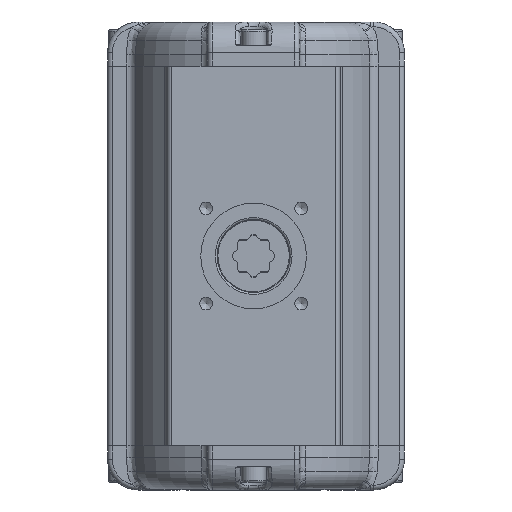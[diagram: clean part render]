
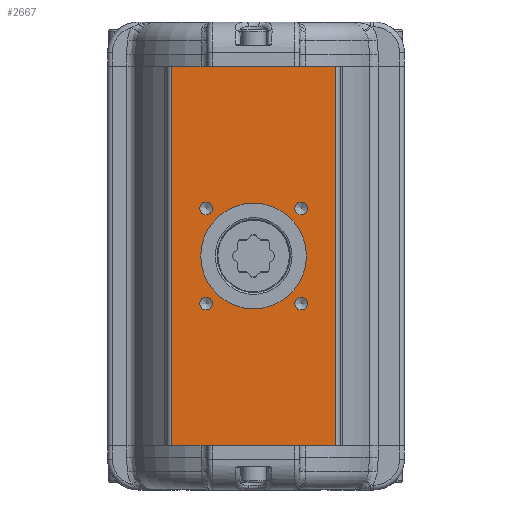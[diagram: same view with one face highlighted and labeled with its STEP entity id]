
A CAD part, front view. The second image highlights one B-rep face of the part: STEP entity #2667.
In plain terms, the highlighted planar face has unit normal (0, -1, 0).
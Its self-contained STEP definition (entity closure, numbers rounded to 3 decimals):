
#660=CARTESIAN_POINT('',(-42.5,-83.0,98.8));
#661=VERTEX_POINT('',#660);
#669=CARTESIAN_POINT('',(42.5,-83.0,98.8));
#670=VERTEX_POINT('',#669);
#671=CARTESIAN_POINT('',(42.5,-83.0,98.8));
#672=DIRECTION('',(-1.0,0.0,0.0));
#673=VECTOR('',#672,85.0);
#674=LINE('',#671,#673);
#675=EDGE_CURVE('',#670,#661,#674,.T.);
#1009=CARTESIAN_POINT('',(42.5,-83.0,-98.8));
#1010=VERTEX_POINT('',#1009);
#1018=CARTESIAN_POINT('',(-42.5,-83.0,-98.8));
#1019=VERTEX_POINT('',#1018);
#1020=CARTESIAN_POINT('',(-42.5,-83.0,-98.8));
#1021=DIRECTION('',(1.0,0.0,0.0));
#1022=VECTOR('',#1021,85.0);
#1023=LINE('',#1020,#1022);
#1024=EDGE_CURVE('',#1019,#1010,#1023,.T.);
#1594=CARTESIAN_POINT('',(-21.425,-83.0,24.749));
#1595=VERTEX_POINT('',#1594);
#1596=CARTESIAN_POINT('',(-24.749,-83.0,24.749));
#1597=DIRECTION('',(0.0,1.0,0.0));
#1598=DIRECTION('',(1.0,0.0,0.0));
#1599=AXIS2_PLACEMENT_3D('',#1596,#1597,#1598);
#1600=CIRCLE('',#1599,3.324);
#1601=EDGE_CURVE('',#1595,#1595,#1600,.T.);
#1673=CARTESIAN_POINT('',(28.072,-83.0,-24.749));
#1674=VERTEX_POINT('',#1673);
#1675=CARTESIAN_POINT('',(24.749,-83.0,-24.749));
#1676=DIRECTION('',(0.0,1.0,0.0));
#1677=DIRECTION('',(1.0,0.0,0.0));
#1678=AXIS2_PLACEMENT_3D('',#1675,#1676,#1677);
#1679=CIRCLE('',#1678,3.324);
#1680=EDGE_CURVE('',#1674,#1674,#1679,.T.);
#1752=CARTESIAN_POINT('',(-21.425,-83.0,-24.749));
#1753=VERTEX_POINT('',#1752);
#1754=CARTESIAN_POINT('',(-24.749,-83.0,-24.749));
#1755=DIRECTION('',(0.0,1.0,0.0));
#1756=DIRECTION('',(1.0,0.0,0.0));
#1757=AXIS2_PLACEMENT_3D('',#1754,#1755,#1756);
#1758=CIRCLE('',#1757,3.324);
#1759=EDGE_CURVE('',#1753,#1753,#1758,.T.);
#1831=CARTESIAN_POINT('',(28.072,-83.0,24.749));
#1832=VERTEX_POINT('',#1831);
#1833=CARTESIAN_POINT('',(24.749,-83.0,24.749));
#1834=DIRECTION('',(0.0,1.0,0.0));
#1835=DIRECTION('',(1.0,0.0,0.0));
#1836=AXIS2_PLACEMENT_3D('',#1833,#1834,#1835);
#1837=CIRCLE('',#1836,3.324);
#1838=EDGE_CURVE('',#1832,#1832,#1837,.T.);
#1851=CARTESIAN_POINT('',(0.0,-83.0,27.5));
#1852=VERTEX_POINT('',#1851);
#1853=CARTESIAN_POINT('',(0.0,-83.0,0.0));
#1854=DIRECTION('',(0.0,1.0,0.0));
#1855=DIRECTION('',(0.0,0.0,1.0));
#1856=AXIS2_PLACEMENT_3D('',#1853,#1854,#1855);
#1857=CIRCLE('',#1856,27.5);
#1858=EDGE_CURVE('',#1852,#1852,#1857,.T.);
#2620=CARTESIAN_POINT('',(42.5,-83.0,98.8));
#2621=DIRECTION('',(0.0,0.0,-1.0));
#2622=VECTOR('',#2621,197.6);
#2623=LINE('',#2620,#2622);
#2624=EDGE_CURVE('',#670,#1010,#2623,.T.);
#2636=CARTESIAN_POINT('',(45.0,-83.0,0.0));
#2637=DIRECTION('',(0.0,-1.0,0.0));
#2638=DIRECTION('',(0.0,0.0,-1.0));
#2639=AXIS2_PLACEMENT_3D('',#2636,#2637,#2638);
#2640=PLANE('',#2639);
#2641=ORIENTED_EDGE('',*,*,#2624,.F.);
#2642=ORIENTED_EDGE('',*,*,#675,.T.);
#2643=CARTESIAN_POINT('',(-42.5,-83.0,-98.8));
#2644=DIRECTION('',(0.0,0.0,1.0));
#2645=VECTOR('',#2644,197.6);
#2646=LINE('',#2643,#2645);
#2647=EDGE_CURVE('',#1019,#661,#2646,.T.);
#2648=ORIENTED_EDGE('',*,*,#2647,.F.);
#2649=ORIENTED_EDGE('',*,*,#1024,.T.);
#2650=EDGE_LOOP('',(#2641,#2642,#2648,#2649));
#2651=FACE_OUTER_BOUND('',#2650,.T.);
#2652=ORIENTED_EDGE('',*,*,#1601,.T.);
#2653=EDGE_LOOP('',(#2652));
#2654=FACE_BOUND('',#2653,.T.);
#2655=ORIENTED_EDGE('',*,*,#1680,.T.);
#2656=EDGE_LOOP('',(#2655));
#2657=FACE_BOUND('',#2656,.T.);
#2658=ORIENTED_EDGE('',*,*,#1759,.T.);
#2659=EDGE_LOOP('',(#2658));
#2660=FACE_BOUND('',#2659,.T.);
#2661=ORIENTED_EDGE('',*,*,#1838,.T.);
#2662=EDGE_LOOP('',(#2661));
#2663=FACE_BOUND('',#2662,.T.);
#2664=ORIENTED_EDGE('',*,*,#1858,.T.);
#2665=EDGE_LOOP('',(#2664));
#2666=FACE_BOUND('',#2665,.T.);
#2667=ADVANCED_FACE('',(#2651,#2654,#2657,#2660,#2663,#2666),#2640,.T.);
